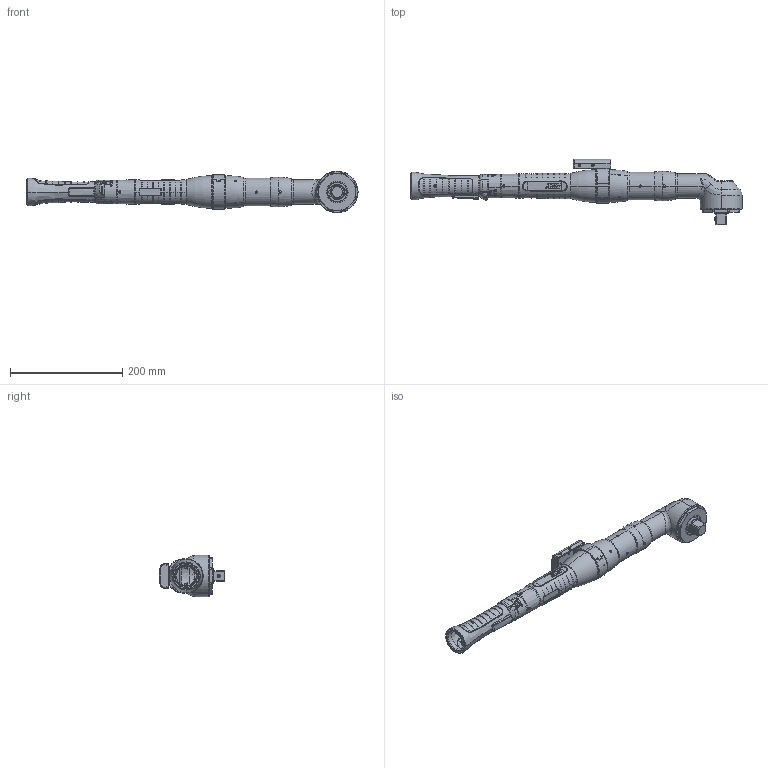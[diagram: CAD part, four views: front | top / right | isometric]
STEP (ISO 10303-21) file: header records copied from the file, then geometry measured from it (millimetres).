
FILE_DESCRIPTION (( 'STEP AP214' ), '1' );
FILE_NAME ('7900207_HCX2250WV34_GyroFlex.STEP', '2012-02-07T16:30:35', ( ' ' ), ( '' ), 'SwSTEP 2.0', 'SolidWorks 2009', '' );
FILE_SCHEMA (( 'AUTOMOTIVE_DESIGN' ));
Length unit declared in the file: millimetre
Products named in the file (1): 7900207_HCX2250WV34_GyroFlex
Bounding box: 591 x 116.78 x 74 mm (x, y, z)
Surface area: 131286.1 mm2 (no closed solid volume)
Topology: 0 solids, 51 shells, 1075 faces, 3777 edges, 2603 vertices
Faces by surface type: cylinder 298, torus 266, plane 251, bspline 190, cone 52, sphere 18
Entity records: 67794 total; most frequent: CARTESIAN_POINT 26083, DIRECTION 6081, ORIENTED_EDGE 5857, EDGE_CURVE 3758, VERTEX_POINT 2595, AXIS2_PLACEMENT_3D 2575, CIRCLE 1689, EDGE_LOOP 1209
